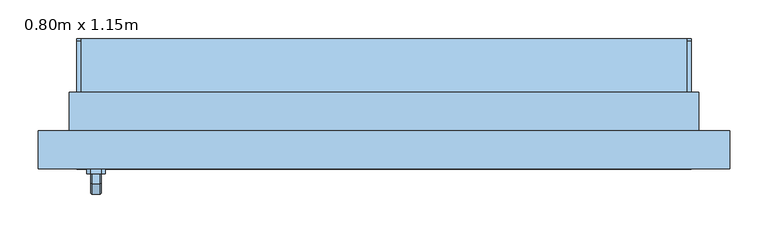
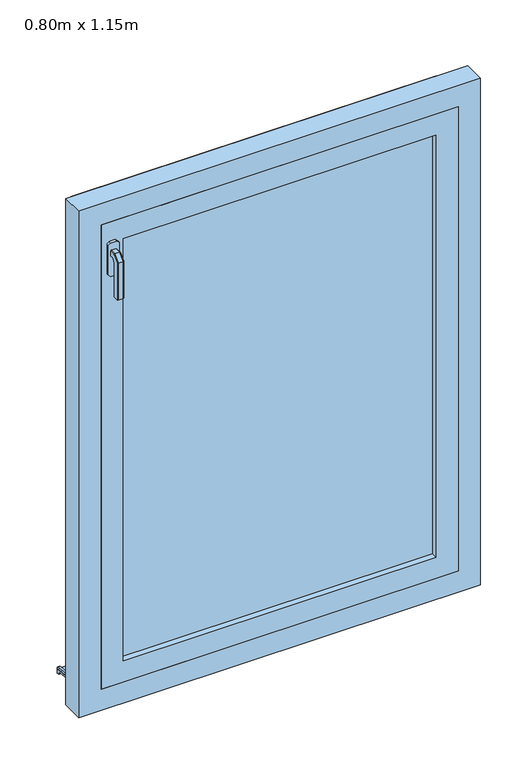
"""IFC4 building model written with IfcOpenShell, lengths in millimetres: window geometry, PF 1 Vantail - Droite : 0.80m x 1.15m."""

from ifc_helpers import new_model, si_unit, point, frame, frame_2d, origin, place, context, project, spatial, polyline, circle_curve, trimmed, segment, composite_curve, outline, extrude, faceted_brep, source, transform, mapped, element, save


def window_0_80m_x_1_15m_e63e5422(model_context):
    return source(origin(), model_context, "Body", "SolidModel", [
        faceted_brep([(-369.3539903, -86.0, 1122.0339292), (-367.9660708, -86.0, 1120.6460097), (-367.9660708, -86.0, 1109.3323012), (-369.3323012, -86.0, 1107.9660708), (-380.6676988, -86.0, 1107.9660708), (-382.0339292, -86.0, 1109.3323012), (-382.0339292, -86.0, 1120.6460097), (-380.6460097, -86.0, 1122.0339292), (-369.3539903, -98.9135489, 1122.0339292), (-367.9660708, -98.3386538, 1120.6460097), (-367.9660708, -111.6460097, 1107.3386538), (-367.9660708, -111.6460097, 1020.0), (-367.9660708, -100.3323012, 1020.0), (-367.9660708, -100.3323012, 1102.6523623), (-367.9660708, -93.6523623, 1109.3323012), (-369.3323012, -93.0864511, 1107.9660708), (-380.6676988, -93.0864511, 1107.9660708), (-382.0339292, -93.6523623, 1109.3323012), (-382.0339292, -100.3323012, 1102.6523623), (-382.0339292, -100.3323012, 1020.0), (-382.0339292, -111.6460097, 1020.0), (-382.0339292, -111.6460097, 1107.3386538), (-382.0339292, -98.3386538, 1120.6460097), (-380.6460097, -98.9135489, 1122.0339292), (-369.3539903, -113.0339292, 1107.9135489), (-369.3323012, -98.9660708, 1102.0864511), (-380.6676988, -98.9660708, 1102.0864511), (-380.6460097, -113.0339292, 1107.9135489), (-369.3539903, -113.0339292, 1020.0), (-380.6460097, -113.0339292, 1020.0), (-380.6676988, -98.9660708, 1020.0), (-369.3323012, -98.9660708, 1020.0)], [[[0, 1, 2, 3, 4, 5, 6, 7]], [[1, 0, 8, 9]], [[2, 1, 9, 10, 11, 12, 13, 14]], [[3, 2, 14, 15]], [[4, 3, 15, 16]], [[5, 4, 16, 17]], [[6, 5, 17, 18, 19, 20, 21, 22]], [[7, 6, 22, 23]], [[0, 7, 23, 8]], [[9, 8, 24, 10]], [[15, 14, 13, 25]], [[16, 15, 25, 26]], [[17, 16, 26, 18]], [[23, 22, 21, 27]], [[8, 23, 27, 24]], [[28, 29, 20, 19, 30, 31, 12, 11]], [[10, 24, 28, 11]], [[25, 13, 12, 31]], [[26, 25, 31, 30]], [[18, 26, 30, 19]], [[27, 21, 20, 29]], [[24, 27, 29, 28]]]),
        extrude(outline(polyline([(1140.0, -368.0), (1140.0, -382.0), (1135.0, -387.0), (1065.0, -387.0), (1060.0, -382.0), (1060.0, -368.0), (1065.0, -363.0), (1135.0, -363.0), (1140.0, -368.0)])), frame((0.0, -86.0, 0.0), z_axis=(0.0, 1.0, 0.0), x_axis=(0.0, 0.0, 1.0)), (0.0, 0.0, 1.0), 6.0),
        extrude(outline(polyline([(90.0288776, 30.7927954), (90.0288776, 19.7145929), (85.0288776, 20.2401141), (85.0288776, 26.0631048), (0.0, 35.0), (0.0, 50.0), (5.0, 50.0), (5.0, 39.7296906), (90.0288776, 30.7927954)])), frame((-400.0, 0.0, 0.0), z_axis=(1.0, 0.0, 0.0), x_axis=(0.0, 1.0, 0.0)), (0.0, 0.0, 1.0), 800.0),
        extrude(outline(composite_curve([segment(polyline([(90.0288776, 30.7927954), (5.0, 39.7296906), (5.0, 44.757232), (86.4469915, 36.1968082)]), True, "CONTINUOUS"), segment(trimmed(circle_curve(frame_2d((86.0288776, 32.2187207)), 4.0), [point((86.4469915, 36.1968082))], [point((90.0288776, 32.2187207))], False, "CARTESIAN"), True, "CONTINUOUS"), segment(polyline([(90.0288776, 32.2187207), (90.0288776, 30.7927954)]), True, "CONTINUOUS")], self_intersect=False)), frame((-400.0, 0.0, 0.0), z_axis=(1.0, 0.0, 0.0), x_axis=(0.0, 1.0, 0.0)), (0.0, 0.0, 1.0), 5.0),
        extrude(outline(composite_curve([segment(polyline([(90.0288776, 30.7927954), (5.0, 39.7296906), (5.0, 44.757232), (86.4469915, 36.1968082)]), True, "CONTINUOUS"), segment(trimmed(circle_curve(frame_2d((86.0288776, 32.2187207)), 4.0), [point((86.4469915, 36.1968082))], [point((90.0288776, 32.2187207))], False, "CARTESIAN"), True, "CONTINUOUS"), segment(polyline([(90.0288776, 32.2187207), (90.0288776, 30.7927954)]), True, "CONTINUOUS")], self_intersect=False)), frame((395.0, 0.0, 0.0), z_axis=(1.0, 0.0, 0.0), x_axis=(0.0, 1.0, 0.0)), (0.0, 0.0, 1.0), 5.0),
        extrude(outline(polyline([(-350.0, -54.0), (350.0, -54.0), (350.0, -66.0), (-350.0, -66.0), (-350.0, -54.0)])), frame((0.0, 0.0, 135.0), z_axis=(0.0, 0.0, 1.0), x_axis=(1.0, 0.0, 0.0)), (0.0, 0.0, 1.0), 1000.0),
        extrude(outline(polyline([(85.0, 400.0), (1185.0, 400.0), (1185.0, -400.0), (85.0, -400.0), (85.0, 400.0)]), holes=[polyline([(135.0, -350.0), (1135.0, -350.0), (1135.0, 350.0), (135.0, 350.0), (135.0, -350.0)])]), frame((0.0, -80.0, 0.0), z_axis=(0.0, 1.0, 0.0), x_axis=(0.0, 0.0, 1.0)), (0.0, 0.0, 1.0), 40.0),
        faceted_brep([(-450.0, -80.0, 35.0), (-450.0, -30.0, 35.0), (-400.0, -30.0, 35.0), (-400.0, 0.0, 35.0), (400.0, 0.0, 35.0), (400.0, -30.0, 35.0), (450.0, -30.0, 35.0), (450.0, -80.0, 35.0), (-450.0, -80.0, 1235.0), (-450.0, -30.0, 1235.0), (450.0, -30.0, 1235.0), (400.0, -30.0, 74.3761425), (-400.0, -30.0, 74.3761425), (-385.0, -30.0, 1170.0), (-385.0, -30.0, 100.0), (385.0, -30.0, 100.0), (385.0, -30.0, 1170.0), (-400.0, 20.0, 60.9786829), (-400.0, 20.0, 45.0), (-400.0, 10.0, 45.0), (-400.0, 10.0, 50.0), (-400.0, 0.0, 50.0), (400.0, 0.0, 50.0), (400.0, 10.0, 50.0), (400.0, 10.0, 45.0), (400.0, 20.0, 45.0), (400.0, 20.0, 60.9786829), (450.0, -80.0, 1235.0), (400.0, -80.0, 1185.0), (400.0, -80.0, 85.0), (-400.0, -80.0, 85.0), (-400.0, -80.0, 1185.0), (-385.0, -40.0, 1170.0), (-385.0, -40.0, 100.0), (385.0, -40.0, 100.0), (385.0, -40.0, 1170.0), (400.0, -40.0, 1185.0), (-400.0, -40.0, 1185.0), (-400.0, -40.0, 85.0), (400.0, -40.0, 85.0)], [[[0, 1, 2, 3, 4, 5, 6, 7]], [[1, 0, 8, 9]], [[1, 9, 10, 6, 5, 11, 12, 2], [13, 14, 15, 16]], [[12, 17, 18, 19, 20, 21, 3, 2]], [[3, 21, 22, 4]], [[4, 22, 23, 24, 25, 26, 11, 5]], [[6, 10, 27, 7]], [[0, 7, 27, 8], [28, 29, 30, 31]], [[13, 32, 33, 14]], [[33, 34, 15, 14]], [[35, 16, 15, 34]], [[17, 12, 11, 26]], [[36, 37, 38, 39], [32, 35, 34, 33]], [[38, 37, 31, 30]], [[30, 29, 39, 38]], [[28, 36, 39, 29]], [[18, 17, 26, 25]], [[19, 18, 25, 24]], [[20, 19, 24, 23]], [[21, 20, 23, 22]], [[13, 16, 35, 32]], [[37, 36, 28, 31]], [[10, 9, 8, 27]]]),
        extrude(outline(polyline([(35.0, -410.0), (35.0, -400.0), (1185.0, -400.0), (1185.0, 400.0), (35.0, 400.0), (35.0, 410.0), (1195.0, 410.0), (1195.0, -410.0), (35.0, -410.0)])), frame((0.0, -30.0, 0.0), z_axis=(0.0, 1.0, 0.0), x_axis=(0.0, 0.0, 1.0)), (0.0, 0.0, 1.0), 50.0),
    ])


if __name__ == "__main__":
    model = new_model("IFC4")
    model_context = context("Model", 3, world=origin())
    ifc_project = project(units=[si_unit("LENGTHUNIT", "METRE", prefix="MILLI")], contexts=[model_context])
    site = spatial("IfcSite", under=ifc_project)
    building = spatial("IfcBuilding", under=site)
    placement = place(None, origin())
    window_0_80m_x_1_15m_shape = window_0_80m_x_1_15m_e63e5422(model_context)
    element("IfcWindow", 1, ObjectType="PF 1 Vantail - Droite : 0.80m x 1.15m", at=placement, inside=building, context=model_context, shape_type="MappedRepresentation", body=[
        mapped(window_0_80m_x_1_15m_shape, transform((0.0, 0.0, 0.0), x_axis=(1.0, 0.0, 0.0), y_axis=(0.0, 1.0, 0.0), z_axis=(0.0, 0.0, 1.0))),
    ])
    save(model, "model.ifc")
